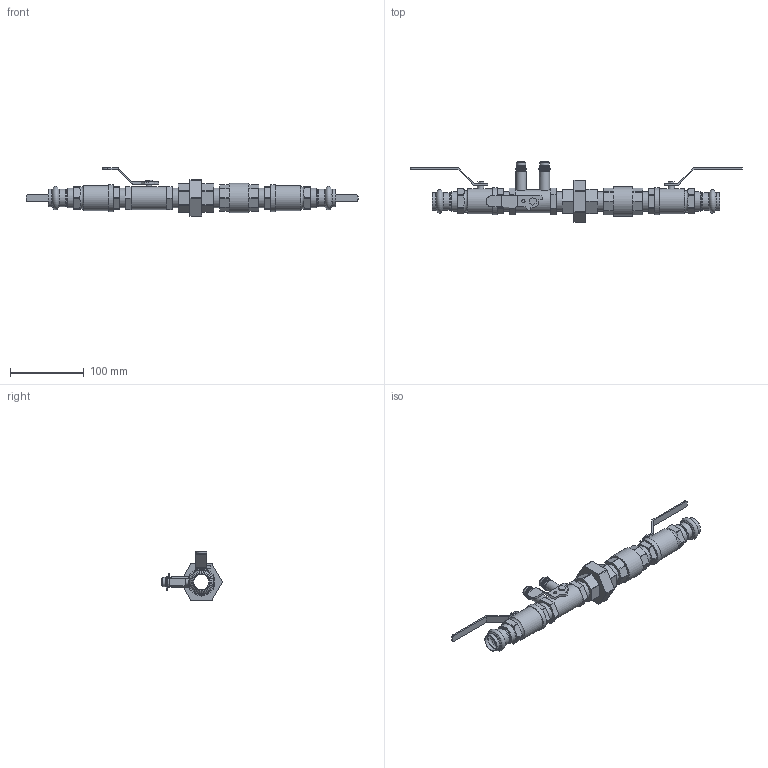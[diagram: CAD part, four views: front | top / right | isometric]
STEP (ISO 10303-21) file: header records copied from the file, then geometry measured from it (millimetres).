
FILE_DESCRIPTION(/* description */ ('VIC DOMESTIC WATER KIT FOR HYDRONIC BALANCING SERIES 7WB (CPF)','CAx-IF Rec.Pracs.---Representation and Presentation of Product Manufacturing Information (PMI)---4.0---2014-10-13'),/* implementation_level */ '2;1');
FILE_NAME(/* name */ 'C:\Users\Vjadhav\AppData\Roaming\Autodesk\ApplicationPlugins\Victaulic.Temp\A168\Victaulic_Domestic Water Kit for Hydronic Balancing_Series 7WB (CPF)_PRS_0.75 (20).stp',/* time_stamp */ '2021-08-10T10:54:48+05:00',/* author */ ('Vjadhav'),/* organization */ ('Victaulic'),/* preprocessor_version */ 'ST-DEVELOPER v17.2',/* originating_system */ 'Autodesk Inventor 2019',/* authorisation */ '');
FILE_SCHEMA (('AP242_MANAGED_MODEL_BASED_3D_ENGINEERING_MIM_LF { 1 0 10303 442 1 1 4 }'));
Length unit declared in the file: inch
Products named in the file (7): 7WB_PRS-0.75; Union_BR_386-0.75; 78BL-0.75; Check_Valve_4133-0.75; Nipple_BR_386_Prs-0.75; 722L_Prs-0.75; P596-0.75x0.75
Assembly tree (11 placements, depth 2):
  7WB_PRS-0.75
    Union_BR_386-0.75
    Nipple_BR_386_Prs-0.75  x4
    78BL-0.75
    722L_Prs-0.75  x2
    P596-0.75x0.75  x2
    Check_Valve_4133-0.75
Bounding box: 450.85 x 82.52 x 66.29 mm (x, y, z)
Volume: 216044.8 mm3; surface area: 117141.1 mm2
Topology: 13 solids, 13 shells, 466 faces, 1270 edges, 863 vertices
Faces by surface type: plane 305, cylinder 125, torus 22, cone 14
Full cylindrical faces by diameter (mm): 4.318 x1, 4.572 x2, 7.62 x1, 8.763 x2, 12.7 x2, 13.97 x2, 20.599 x4, 20.879 x4, 20.93 x6, 21.59 x1, 22.225 x6, 23.851 x4, 26.67 x16, 31.42 x1, 34.052 x2, 36.83 x2, 39.751 x1
Entity records: 12193 total; most frequent: CARTESIAN_POINT 2186, DIRECTION 2033, ORIENTED_EDGE 1916, EDGE_CURVE 958, AXIS2_PLACEMENT_3D 719, VERTEX_POINT 642, LINE 595, VECTOR 595
